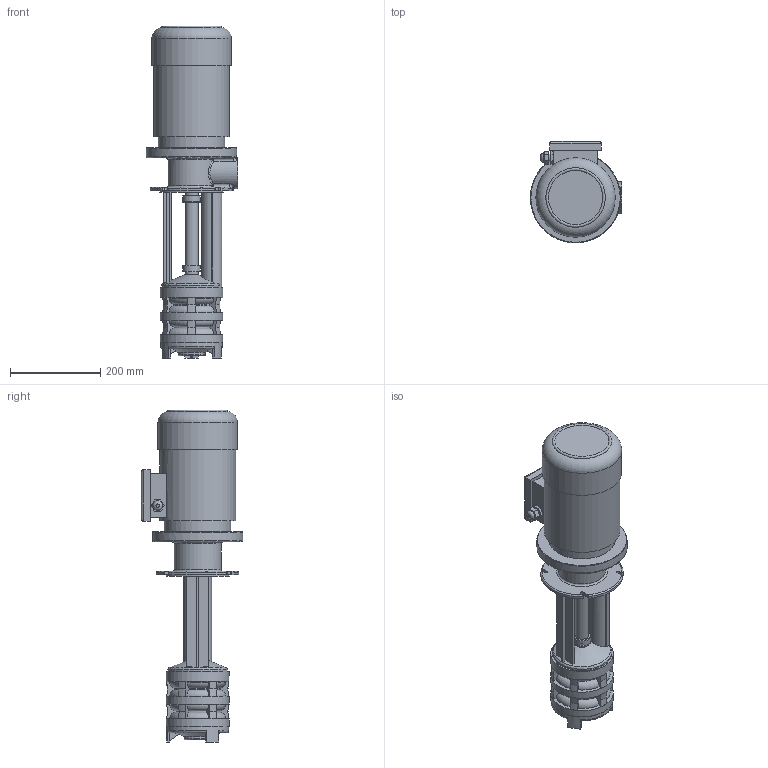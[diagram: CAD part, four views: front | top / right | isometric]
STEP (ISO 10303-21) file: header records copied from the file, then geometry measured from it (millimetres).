
FILE_DESCRIPTION(/* description */ ('Unknown'),/* implementation_level */ '2;1');
FILE_NAME(/* name */ 'gp3-370',/* time_stamp */ '2025-06-04T09:22:37+03:00',/* author */ ('Unknown'),/* organization */ ('Unknown'),/* preprocessor_version */ 'ST-DEVELOPER v16.7',/* originating_system */ 'DEX',/* authorisation */ $);
FILE_SCHEMA (('AUTOMOTIVE_DESIGN {1 0 10303 214 3 1 1}'));
Length unit declared in the file: millimetre
Products named in the file (1): gp3-370
Bounding box: 202 x 225 x 735.34 mm (x, y, z)
Volume: 10933516.7 mm3; surface area: 518816.3 mm2
Topology: 1 solids, 1 shells, 385 faces, 994 edges, 642 vertices
Faces by surface type: plane 134, bspline 84, cylinder 79, cone 47, torus 41
Full cylindrical faces by diameter (mm): 17 x1, 21.5 x1, 29 x3, 33 x2, 35 x2, 39 x2, 40.5 x2, 45 x1, 47 x1, 60 x1, 137 x1, 139 x3, 140 x1, 168.001 x1, 176 x1, 200 x1
Entity records: 14339 total; most frequent: CARTESIAN_POINT 5577, ORIENTED_EDGE 1864, DIRECTION 1645, EDGE_CURVE 932, VERTEX_POINT 632, AXIS2_PLACEMENT_3D 618, EDGE_LOOP 472, FACE_BOUND 472
